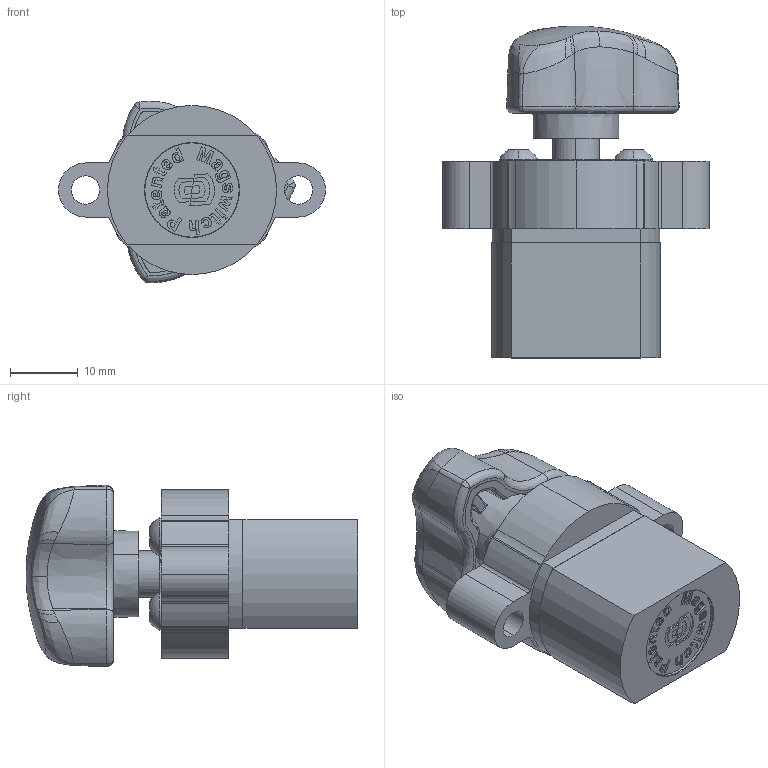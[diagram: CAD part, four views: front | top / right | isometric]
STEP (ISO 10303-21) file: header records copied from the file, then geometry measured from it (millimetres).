
FILE_DESCRIPTION (( 'STEP AP214' ), '1' );
FILE_NAME ('8000818_p.STEP', '2016-03-23T18:15:44', ( '' ), ( '' ), 'SwSTEP 2.0', 'SolidWorks 2013', '' );
FILE_SCHEMA (( 'AUTOMOTIVE_DESIGN' ));
Length unit declared in the file: millimetre
Products named in the file (1): 8000818_p
Bounding box: 39.47 x 49.07 x 26.83 mm (x, y, z)
Surface area: 6614 mm2 (no closed solid volume)
Topology: 0 solids, 11 shells, 561 faces, 1622 edges, 1090 vertices
Faces by surface type: plane 229, bspline 216, cylinder 70, cone 38, sphere 8
Entity records: 36863 total; most frequent: CARTESIAN_POINT 17805, ORIENTED_EDGE 2981, DIRECTION 1939, EDGE_CURVE 1620, VERTEX_POINT 1090, VECTOR 761, LINE 761, EDGE_LOOP 617
